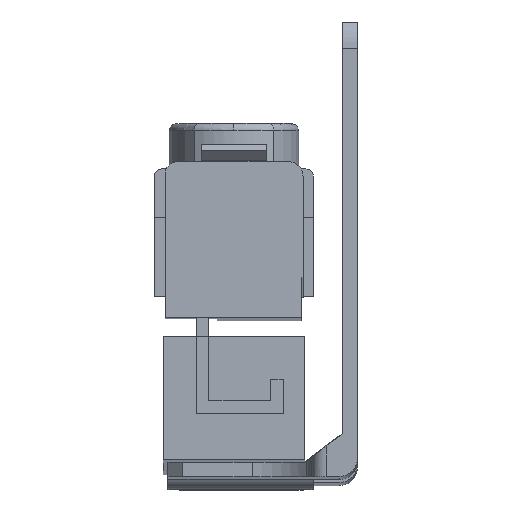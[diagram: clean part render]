
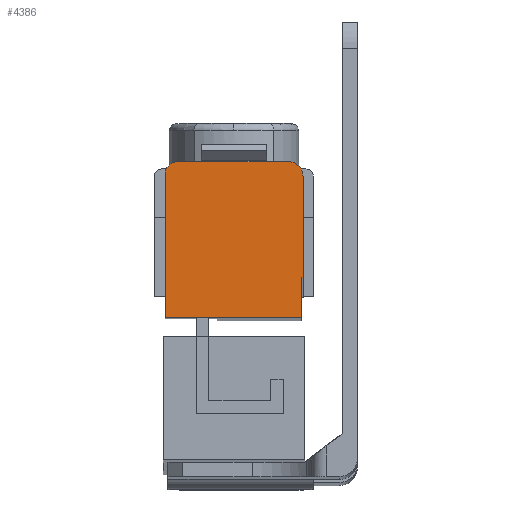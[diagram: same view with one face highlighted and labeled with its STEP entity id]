
A CAD part, front view. The second image highlights one B-rep face of the part: STEP entity #4386.
In plain terms, the highlighted planar face has unit normal (0, -1, 0.011).
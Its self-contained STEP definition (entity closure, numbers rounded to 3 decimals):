
#400 = EDGE_CURVE ( 'NONE', #5946, #6019, #1884, .T. ) ;
#401 = EDGE_CURVE ( 'NONE', #5875, #5946, #1882, .T. ) ;
#404 = EDGE_CURVE ( 'NONE', #6019, #5889, #1876, .T. ) ;
#405 = EDGE_CURVE ( 'NONE', #5938, #5875, #1874, .T. ) ;
#409 = EDGE_CURVE ( 'NONE', #5916, #5938, #1865, .T. ) ;
#411 = EDGE_CURVE ( 'NONE', #5942, #5937, #2958, .T. ) ;
#413 = EDGE_CURVE ( 'NONE', #5889, #5942, #2961, .T. ) ;
#418 = EDGE_CURVE ( 'NONE', #5937, #5916, #2969, .T. ) ;
#579 = AXIS2_PLACEMENT_3D ( 'NONE', #3569, #3567, #3563 ) ;
#580 = AXIS2_PLACEMENT_3D ( 'NONE', #3551, #3550, #3549 ) ;
#751 = AXIS2_PLACEMENT_3D ( 'NONE', #1391, #1390, #1389 ) ;
#1010 = ORIENTED_EDGE ( 'NONE', *, *, #404, .T. ) ;
#1011 = ORIENTED_EDGE ( 'NONE', *, *, #400, .T. ) ;
#1012 = ORIENTED_EDGE ( 'NONE', *, *, #401, .T. ) ;
#1013 = ORIENTED_EDGE ( 'NONE', *, *, #405, .T. ) ;
#1014 = ORIENTED_EDGE ( 'NONE', *, *, #409, .T. ) ;
#1015 = ORIENTED_EDGE ( 'NONE', *, *, #418, .T. ) ;
#1016 = ORIENTED_EDGE ( 'NONE', *, *, #411, .T. ) ;
#1017 = ORIENTED_EDGE ( 'NONE', *, *, #413, .T. ) ;
#1389 = DIRECTION ( 'NONE',  ( 0., -0.01, -1. ) ) ;
#1390 = DIRECTION ( 'NONE',  ( 0., -1., 0.01 ) ) ;
#1391 = CARTESIAN_POINT ( 'NONE',  ( -24.75, -24.566, -6.021 ) ) ;
#1392 = PLANE ( 'NONE',  #751 ) ;
#1865 = CIRCLE ( 'NONE', #579, 1.75 ) ;
#1873 = VECTOR ( 'NONE', #3591, 1000. ) ;
#1874 = LINE ( 'NONE', #3593, #1873 ) ;
#1875 = VECTOR ( 'NONE', #3595, 1000. ) ;
#1876 = LINE ( 'NONE', #3597, #1875 ) ;
#1881 = VECTOR ( 'NONE', #3609, 1000. ) ;
#1882 = LINE ( 'NONE', #3612, #1881 ) ;
#1883 = VECTOR ( 'NONE', #3615, 1000. ) ;
#1884 = LINE ( 'NONE', #3617, #1883 ) ;
#2319 = EDGE_LOOP ( 'NONE', ( #1017, #1016, #1015, #1014, #1013, #1012, #1011, #1010 ) ) ;
#2958 = CIRCLE ( 'NONE', #580, 2.05 ) ;
#2961 = LINE ( 'NONE', #3541, #2962 ) ;
#2962 = VECTOR ( 'NONE', #3539, 1000. ) ;
#2969 = LINE ( 'NONE', #3517, #2971 ) ;
#2971 = VECTOR ( 'NONE', #3513, 1000. ) ;
#3513 = DIRECTION ( 'NONE',  ( -1., 0., 0. ) ) ;
#3517 = CARTESIAN_POINT ( 'NONE',  ( -24.75, -24.548, -4.271 ) ) ;
#3539 = DIRECTION ( 'NONE',  ( 0., 0.01, 1. ) ) ;
#3541 = CARTESIAN_POINT ( 'NONE',  ( -7.5, -24.569, -6.321 ) ) ;
#3549 = DIRECTION ( 'NONE',  ( 0., 0.01, 1. ) ) ;
#3550 = DIRECTION ( 'NONE',  ( 0., -1., 0.01 ) ) ;
#3551 = CARTESIAN_POINT ( 'NONE',  ( -9.55, -24.569, -6.321 ) ) ;
#3563 = DIRECTION ( 'NONE',  ( 0., -0.01, -1. ) ) ;
#3567 = DIRECTION ( 'NONE',  ( 0., -1., 0.01 ) ) ;
#3569 = CARTESIAN_POINT ( 'NONE',  ( -24.75, -24.566, -6.021 ) ) ;
#3591 = DIRECTION ( 'NONE',  ( 0., -0.01, -1. ) ) ;
#3593 = CARTESIAN_POINT ( 'NONE',  ( -26.5, -24.566, -6.021 ) ) ;
#3595 = DIRECTION ( 'NONE',  ( 1., 0., 0. ) ) ;
#3597 = CARTESIAN_POINT ( 'NONE',  ( -26.5, -24.715, -20.27 ) ) ;
#3609 = DIRECTION ( 'NONE',  ( 1., 0., 0. ) ) ;
#3612 = CARTESIAN_POINT ( 'NONE',  ( -7.75, -24.773, -25.769 ) ) ;
#3615 = DIRECTION ( 'NONE',  ( 0., 0.01, 1. ) ) ;
#3617 = CARTESIAN_POINT ( 'NONE',  ( -7.75, -24.773, -25.769 ) ) ;
#4155 = FACE_OUTER_BOUND ( 'NONE', #2319, .T. ) ;
#4386 = ADVANCED_FACE ( 'NONE', ( #4155 ), #1392, .T. ) ;
#4790 = CARTESIAN_POINT ( 'NONE',  ( -7.75, -24.715, -20.27 ) ) ;
#4898 = CARTESIAN_POINT ( 'NONE',  ( -7.75, -24.773, -25.769 ) ) ;
#4906 = CARTESIAN_POINT ( 'NONE',  ( -7.5, -24.569, -6.321 ) ) ;
#4910 = CARTESIAN_POINT ( 'NONE',  ( -26.5, -24.566, -6.021 ) ) ;
#4911 = CARTESIAN_POINT ( 'NONE',  ( -9.55, -24.548, -4.271 ) ) ;
#4938 = CARTESIAN_POINT ( 'NONE',  ( -24.75, -24.548, -4.271 ) ) ;
#4971 = CARTESIAN_POINT ( 'NONE',  ( -7.5, -24.715, -20.27 ) ) ;
#4986 = CARTESIAN_POINT ( 'NONE',  ( -26.5, -24.773, -25.769 ) ) ;
#5875 = VERTEX_POINT ( 'NONE', #4986 ) ;
#5889 = VERTEX_POINT ( 'NONE', #4971 ) ;
#5916 = VERTEX_POINT ( 'NONE', #4938 ) ;
#5937 = VERTEX_POINT ( 'NONE', #4911 ) ;
#5938 = VERTEX_POINT ( 'NONE', #4910 ) ;
#5942 = VERTEX_POINT ( 'NONE', #4906 ) ;
#5946 = VERTEX_POINT ( 'NONE', #4898 ) ;
#6019 = VERTEX_POINT ( 'NONE', #4790 ) ;
